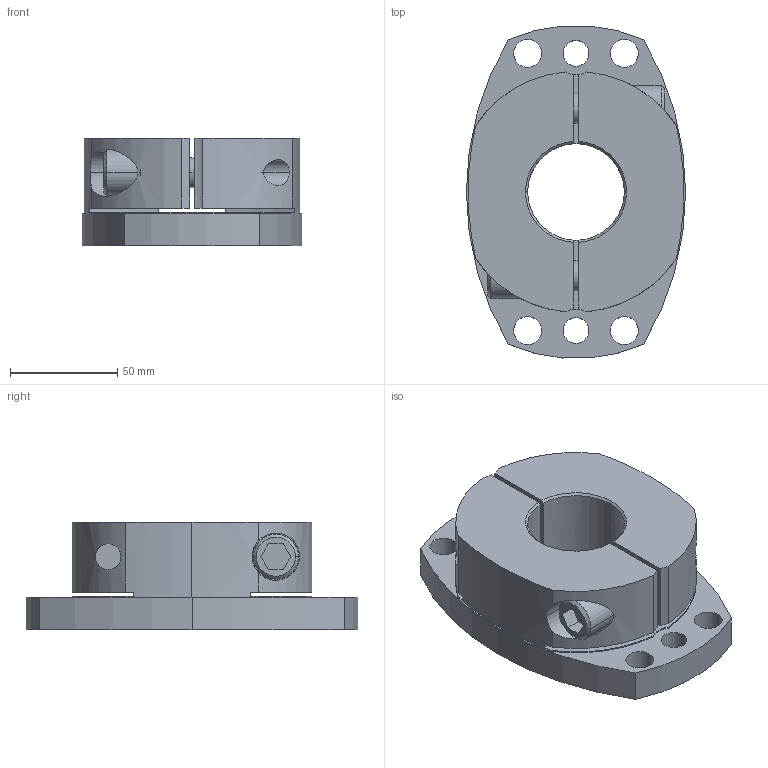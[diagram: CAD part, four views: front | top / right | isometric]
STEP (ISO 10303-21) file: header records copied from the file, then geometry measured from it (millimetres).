
FILE_DESCRIPTION((''),'2;1');
FILE_NAME('SHDB-155B-45.stp','2026-01-28T09:00:31',(''),(''),'AutoCAD STEP 2000i','AutoCAD 2000i',', , ');
FILE_SCHEMA(('CONFIG_CONTROL_DESIGN'));
Length unit declared in the file: millimetre
Products named in the file (2): SHDB-155B-45; 忣兜1
Assembly tree (1 placements, depth 2):
  SHDB-155B-45
    忣兜1
Bounding box: 102 x 154.46 x 50 mm (x, y, z)
Volume: 414582.6 mm3; surface area: 69639.8 mm2
Topology: 1 solids, 1 shells, 102 faces, 274 edges, 180 vertices
Faces by surface type: cylinder 58, plane 34, cone 10
Entity records: 3673 total; most frequent: CARTESIAN_POINT 874, DIRECTION 600, ORIENTED_EDGE 548, EDGE_CURVE 274, AXIS2_PLACEMENT_3D 238, VERTEX_POINT 180, CIRCLE 134, EDGE_LOOP 126
